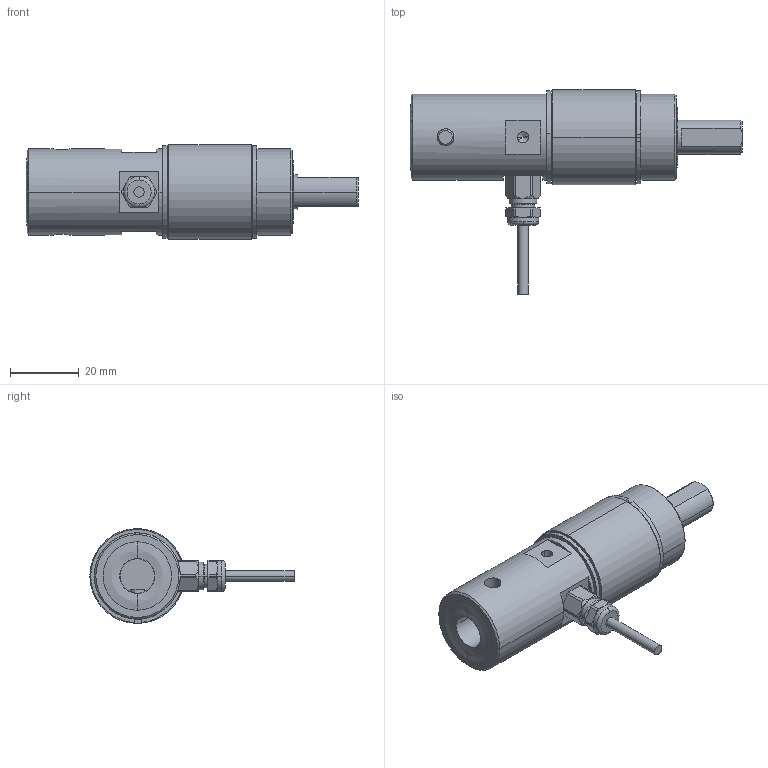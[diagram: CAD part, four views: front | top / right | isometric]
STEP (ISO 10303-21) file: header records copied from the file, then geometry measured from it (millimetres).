
FILE_DESCRIPTION(('STEP AP203'),'1');
FILE_NAME('C:/TPO v2/SharedFS/Outgoing/burster_8451-6020_ax7xk4s7210e3xjr2g1vfos9s.stp','2013-08-27T17:32:28',('TraceParts'),('TraceParts S.A.'),'XStep 1.0',' ',' ');
FILE_SCHEMA(('CONFIG_CONTROL_DESIGN'));
Length unit declared in the file: millimetre
Products named in the file (1): 1
Bounding box: 96.3 x 59.25 x 27.5 mm (x, y, z)
Volume: 40471.5 mm3; surface area: 10243.2 mm2
Topology: 1 solids, 1 shells, 156 faces, 401 edges, 261 vertices
Faces by surface type: cylinder 58, plane 56, cone 34, bspline 4, torus 4
Entity records: 4995 total; most frequent: CARTESIAN_POINT 1145, DIRECTION 841, ORIENTED_EDGE 790, EDGE_CURVE 395, AXIS2_PLACEMENT_3D 345, VERTEX_POINT 261, CIRCLE 192, EDGE_LOOP 178
